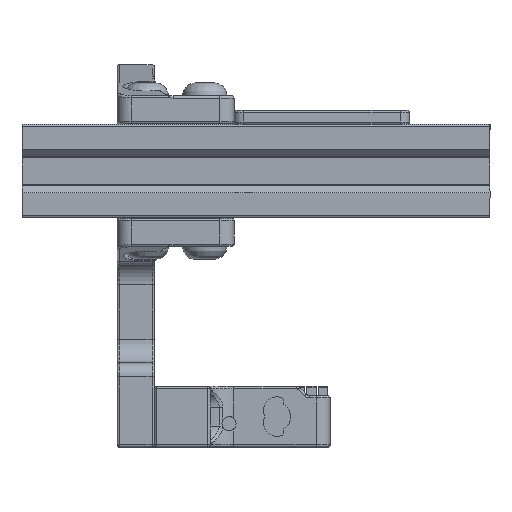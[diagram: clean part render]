
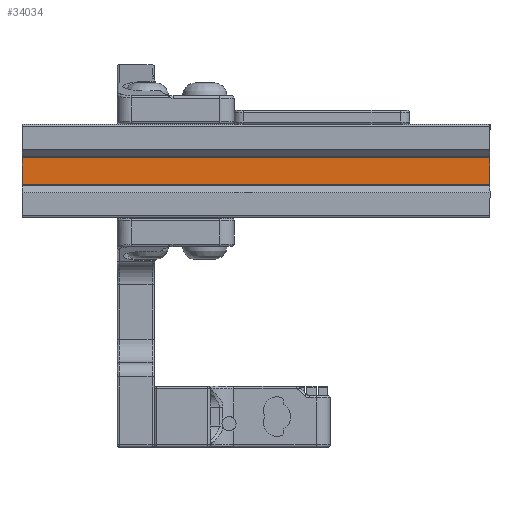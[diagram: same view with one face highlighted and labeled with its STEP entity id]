
A CAD part, front view. The second image highlights one B-rep face of the part: STEP entity #34034.
In plain terms, the highlighted planar face has unit normal (0, -1, 0).
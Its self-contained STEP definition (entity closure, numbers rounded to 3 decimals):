
#2533=PLANE('',#37346);
#4546=LINE('',#113517,#7270);
#4666=LINE('',#113768,#7390);
#4667=LINE('',#113771,#7391);
#4668=LINE('',#113772,#7392);
#7270=VECTOR('',#44406,10.);
#7390=VECTOR('',#44644,10.);
#7391=VECTOR('',#44647,10.);
#7392=VECTOR('',#44648,10.);
#10695=FACE_OUTER_BOUND('',#12780,.T.);
#12780=EDGE_LOOP('',(#30298,#30299,#30300,#30301));
#16638=VERTEX_POINT('',#113514);
#16639=VERTEX_POINT('',#113516);
#16711=VERTEX_POINT('',#113766);
#16712=VERTEX_POINT('',#113770);
#21239=EDGE_CURVE('',#16638,#16639,#4546,.T.);
#21365=EDGE_CURVE('',#16638,#16711,#4666,.T.);
#21366=EDGE_CURVE('',#16712,#16711,#4667,.F.);
#21367=EDGE_CURVE('',#16639,#16712,#4668,.T.);
#30298=ORIENTED_EDGE('',*,*,#21239,.F.);
#30299=ORIENTED_EDGE('',*,*,#21365,.T.);
#30300=ORIENTED_EDGE('',*,*,#21366,.F.);
#30301=ORIENTED_EDGE('',*,*,#21367,.F.);
#34034=ADVANCED_FACE('',(#10695),#2533,.T.);
#37346=AXIS2_PLACEMENT_3D('',#113769,#44645,#44646);
#44406=DIRECTION('',(0.,0.,1.));
#44644=DIRECTION('',(1.,0.,0.));
#44645=DIRECTION('center_axis',(0.,-1.,0.));
#44646=DIRECTION('ref_axis',(0.,0.,-1.));
#44647=DIRECTION('',(0.,0.,1.));
#44648=DIRECTION('',(1.,0.,0.));
#113514=CARTESIAN_POINT('',(-107.175,-113.923,-93.239));
#113516=CARTESIAN_POINT('',(-107.175,-113.923,-87.549));
#113517=CARTESIAN_POINT('',(-107.175,-113.923,-88.972));
#113766=CARTESIAN_POINT('',(-7.175,-113.923,-93.239));
#113768=CARTESIAN_POINT('',(-157.175,-113.923,-93.239));
#113769=CARTESIAN_POINT('Origin',(-157.175,-113.923,-87.549));
#113770=CARTESIAN_POINT('',(-7.175,-113.923,-87.549));
#113771=CARTESIAN_POINT('',(-7.175,-113.923,-88.972));
#113772=CARTESIAN_POINT('',(-157.175,-113.923,-87.549));
